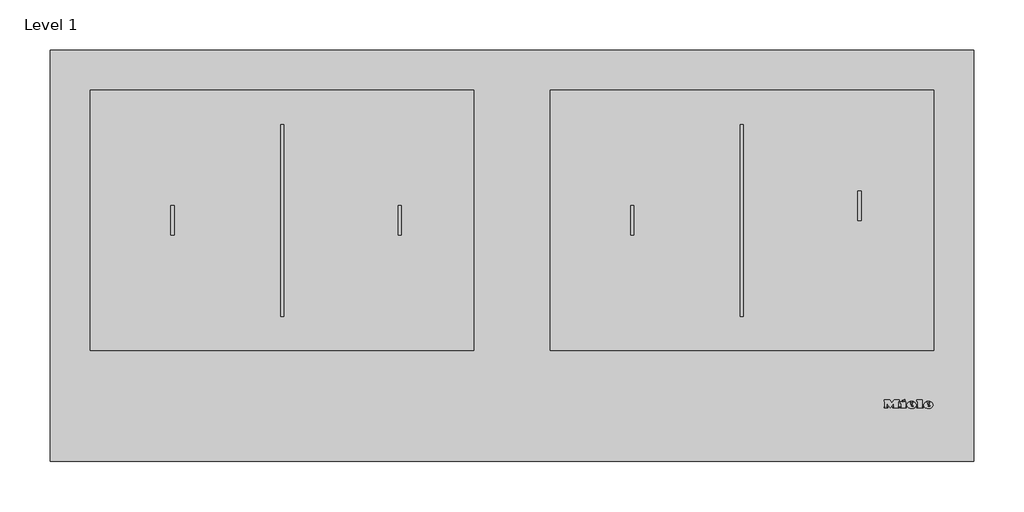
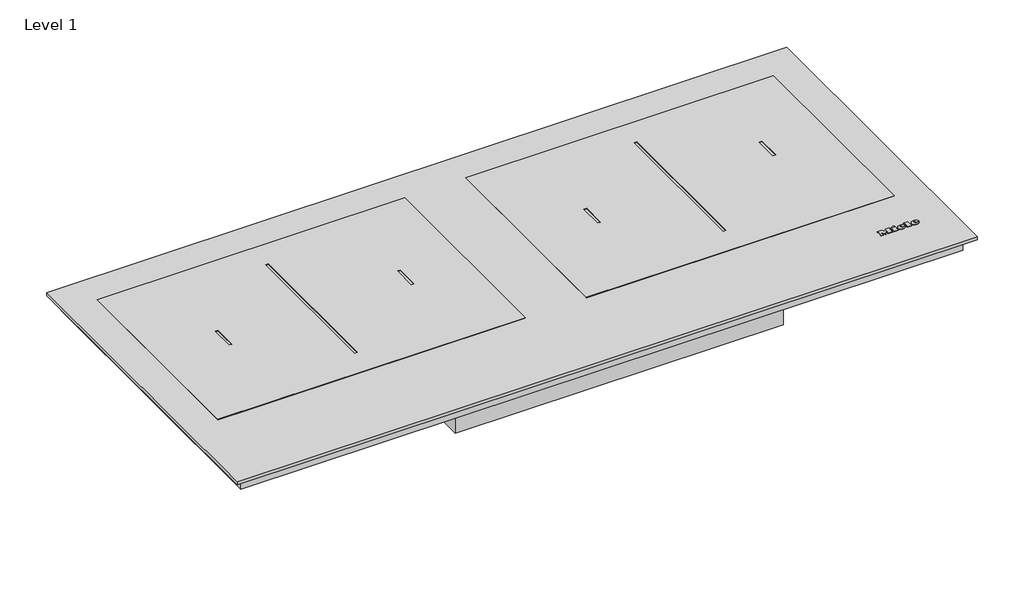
# One storey: 1 proxy.
"""IFC4 building model written with IfcOpenShell, lengths in millimetres."""

from ifc_helpers import new_model, si_unit, origin, place, context, project, spatial, transform, mapped, element, save
from components import specialty_equipment_644c648f

model = new_model("IFC4")

# Units and contexts
model_context = context("Model", 3, world=origin())
ifc_project = project(units=[si_unit("LENGTHUNIT", "METRE", prefix="MILLI")], contexts=[model_context])

# Site, building, storey
site = spatial("IfcSite", under=ifc_project)
building = spatial("IfcBuilding", under=site)
storey = spatial("IfcBuildingStorey", under=building, Name="Level 1", Elevation=0.0)

# Proxy
placement = place(None, origin())
specialty_equipment_shape = specialty_equipment_644c648f(model_context)
element("IfcBuildingElementProxy", 1, Name="11206130_RU_KM7684FL : 26768470_RU_11206130_KM7684FL", ObjectType="11206130_RU_KM7684FL : 26768470_RU_11206130_KM7684FL", at=placement, inside=storey, context=model_context, shape_type="MappedRepresentation", body=[
    mapped(specialty_equipment_shape, transform((0.0, 0.0, 0.0), x_axis=(1.0, 0.0, 0.0), y_axis=(0.0, 1.0, 0.0), z_axis=(0.0, 0.0, 1.0))),
])

save(model, "model.ifc")
